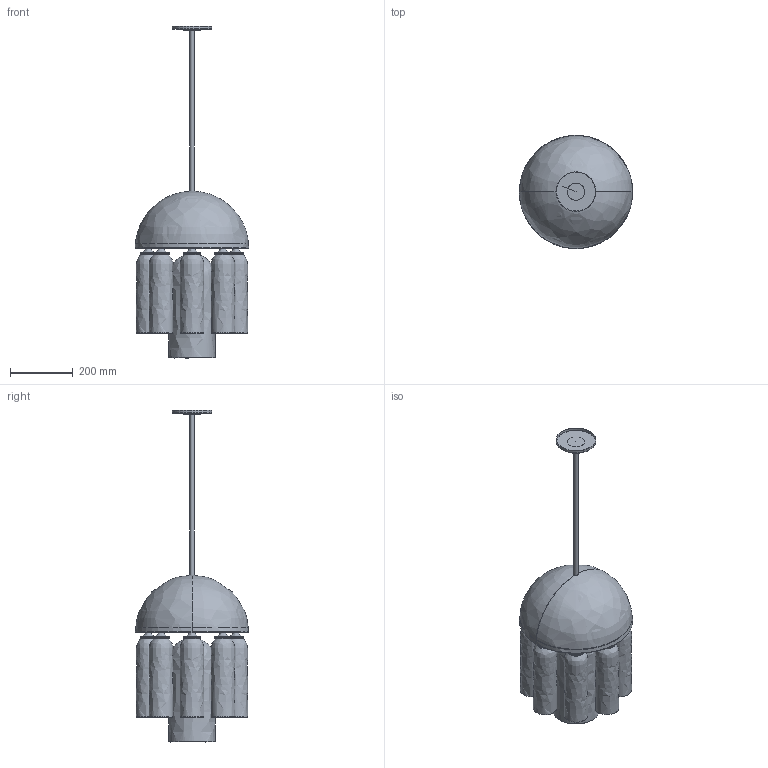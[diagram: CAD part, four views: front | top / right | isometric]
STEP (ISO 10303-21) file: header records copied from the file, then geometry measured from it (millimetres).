
FILE_DESCRIPTION(/* description */ (''),/* implementation_level */ '2;1');
FILE_NAME(/* name */ 'SkLO_AvroKO_CrownChandelier_3D_LT635',/* time_stamp */ '2025-08-05T17:25:29+02:00',/* author */ (''),/* organization */ (''),/* preprocessor_version */ 'ST-DEVELOPER v16.5',/* originating_system */ 'Rhino 7.38',/* authorisation */ '');
FILE_SCHEMA (('CONFIG_CONTROL_DESIGN'));
Length unit declared in the file: millimetre
Products named in the file (1): Document
Bounding box: 363 x 362.74 x 1062.38 mm (x, y, z)
Volume: 3840542.7 mm3; surface area: 2089879.3 mm2
Topology: 62 solids, 63 shells, 489 faces, 985 edges, 582 vertices
Faces by surface type: bspline 221, plane 186, cylinder 82
Full cylindrical faces by diameter (mm): 10.2 x9, 11 x8, 13 x9, 18.275 x1, 25 x8, 34.074 x8, 36 x8, 38 x9, 50 x8, 52 x8, 124 x1, 127 x1, 140 x1, 359.2 x1
Entity records: 19110 total; most frequent: CARTESIAN_POINT 12754, ORIENTED_EDGE 1881, EDGE_CURVE 941, VERTEX_POINT 582, EDGE_LOOP 548, ADVANCED_FACE 489, FACE_OUTER_BOUND 489, B_SPLINE_CURVE_WITH_KNOTS 342
